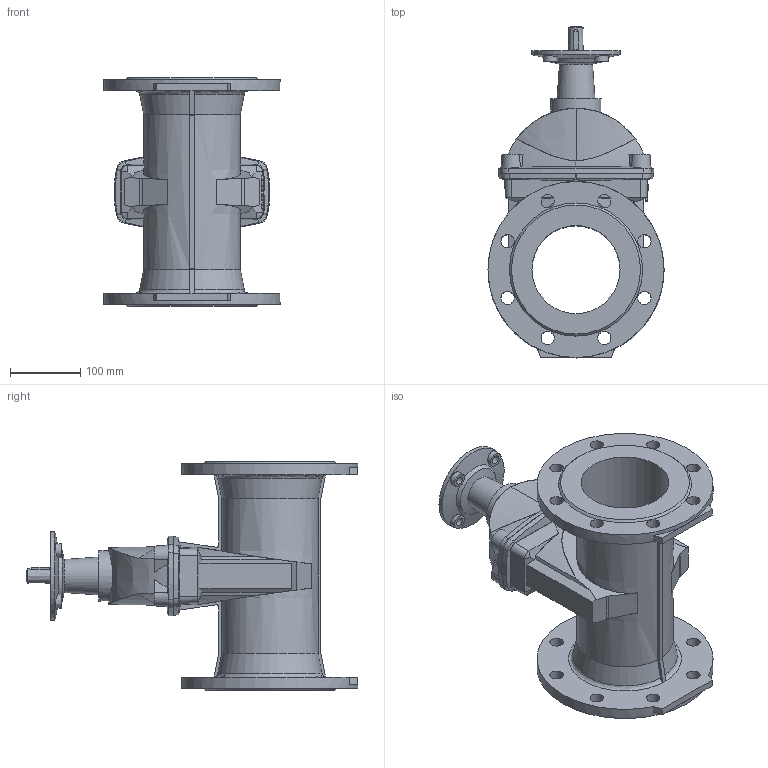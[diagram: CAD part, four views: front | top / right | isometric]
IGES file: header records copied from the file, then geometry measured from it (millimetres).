
Start section: SolidWorks IGES file using analytic representation for surfaces
Global section: file name: \\avksan2\techshare\PBM outline export from Enovia\O_15_72_DN125_X1XXX099_AA0.igs; native system: SolidWorks 2012; preprocessor: SolidWorks 2012; author: pbm; date: 170310.095355; units: inch
Bounding box: 250 x 471 x 325 mm (x, y, z)
Surface area: 579258 mm2 (no closed solid volume)
Topology: 0 solids, 0 shells, 296 faces, 2042 edges, 1971 vertices
Faces by surface type: bspline 179, revolution 117
